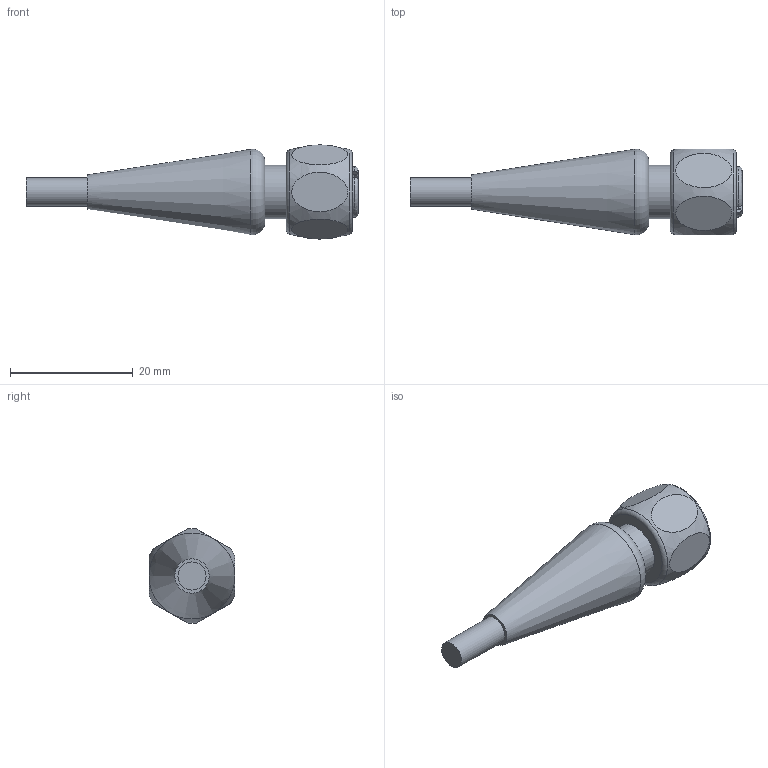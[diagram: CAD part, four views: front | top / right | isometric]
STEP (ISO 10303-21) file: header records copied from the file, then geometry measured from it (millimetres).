
FILE_DESCRIPTION( ( 'Unknown' ), '1' );
FILE_NAME( 'X:/SolidEdge/Models/Dokumentationen/_Standardteile/Kabeldosen/ES 34/Vereinfachte Modelle/Neutralformate/ESG 34AY.stp', 'Unknown', ( 'Unknown' ), ( 'Unknown' ), 'PSStep 15.0.49', 'Unknown', ' ' );
FILE_SCHEMA( ( 'AUTOMOTIVE_DESIGN { 1 0 10303 214 1 1 1 1 }' ) );
Length unit declared in the file: millimetre
Products named in the file (1): FB-WAK4_S3930
Bounding box: 54.2 x 14 x 15.36 mm (x, y, z)
Volume: 4290.7 mm3; surface area: 2495 mm2
Topology: 1 solids, 1 shells, 76 faces, 163 edges, 109 vertices
Faces by surface type: plane 33, cylinder 30, cone 7, torus 5, bspline 1
Full cylindrical faces by diameter (mm): 1.15 x4, 4.6 x1, 8.7 x1, 10.917 x1
Entity records: 3007 total; most frequent: CARTESIAN_POINT 752, DIRECTION 364, ORIENTED_EDGE 282, AXIS2_PLACEMENT_3D 155, EDGE_CURVE 141, EDGE_LOOP 115, VERTEX_POINT 107, FACE_OUTER_BOUND 88
